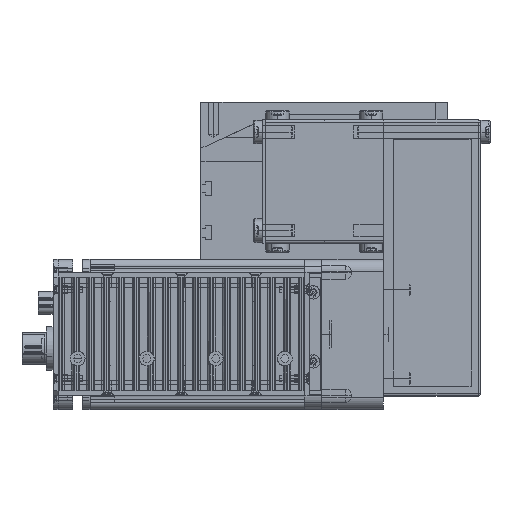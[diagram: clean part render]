
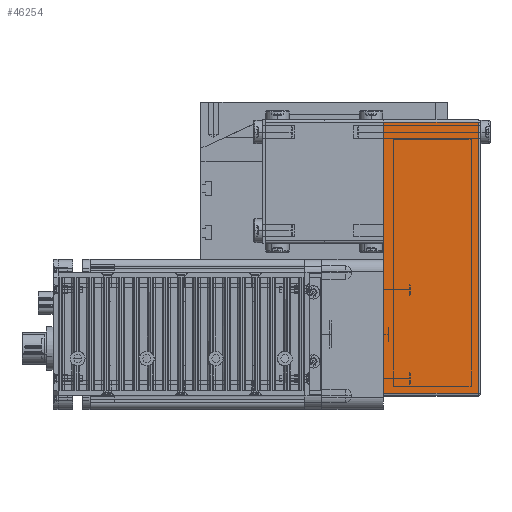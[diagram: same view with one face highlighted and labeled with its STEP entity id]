
A CAD part, top view. The second image highlights one B-rep face of the part: STEP entity #46254.
In plain terms, the highlighted planar face has unit normal (0, 0, 1) as drawn and (0, -1, 0) by its records, which use the part's own axes.
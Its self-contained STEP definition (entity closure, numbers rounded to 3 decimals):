
#28088 = LINE ( 'NONE', #28140, #28139 ) ;
#28115 = CARTESIAN_POINT ( 'NONE',  ( -49., -25., 38.5 ) ) ;
#28131 = DIRECTION ( 'NONE',  ( 1., 0., 0. ) ) ;
#28139 = VECTOR ( 'NONE', #28131, 1000. ) ;
#28140 = CARTESIAN_POINT ( 'NONE',  ( -50., -25., 0. ) ) ;
#28154 = CARTESIAN_POINT ( 'NONE',  ( 61., -25., 0. ) ) ;
#28175 = CARTESIAN_POINT ( 'NONE',  ( -49., -25., 0. ) ) ;
#28203 = DIRECTION ( 'NONE',  ( 0., 0., -1. ) ) ;
#28204 = VECTOR ( 'NONE', #28203, 1000. ) ;
#28210 = CARTESIAN_POINT ( 'NONE',  ( 61., -25., 39.5 ) ) ;
#28211 = LINE ( 'NONE', #28210, #28204 ) ;
#28217 = DIRECTION ( 'NONE',  ( 0., 0., 1. ) ) ;
#28218 = VECTOR ( 'NONE', #28217, 1000. ) ;
#28219 = CARTESIAN_POINT ( 'NONE',  ( -49., -25., 39.5 ) ) ;
#28224 = LINE ( 'NONE', #28219, #28218 ) ;
#28338 = FACE_OUTER_BOUND ( 'NONE', #46263, .T. ) ;
#28345 = DIRECTION ( 'NONE',  ( 0., 1., 0. ) ) ;
#28346 = CARTESIAN_POINT ( 'NONE',  ( -50., -25., 39.5 ) ) ;
#28378 = DIRECTION ( 'NONE',  ( 0., 0., 1. ) ) ;
#28388 = PLANE ( 'NONE',  #28396 ) ;
#28390 = CARTESIAN_POINT ( 'NONE',  ( 61., -25., 38.5 ) ) ;
#28396 = AXIS2_PLACEMENT_3D ( 'NONE', #28346, #28345, #28378 ) ;
#28527 = CARTESIAN_POINT ( 'NONE',  ( -50., -25., 38.5 ) ) ;
#28528 = LINE ( 'NONE', #28527, #28571 ) ;
#28570 = DIRECTION ( 'NONE',  ( 1., 0., 0. ) ) ;
#28571 = VECTOR ( 'NONE', #28570, 1000. ) ;
#46128 = EDGE_CURVE ( 'NONE', #46146, #46171, #28088, .T. ) ;
#46146 = VERTEX_POINT ( 'NONE', #28175 ) ;
#46147 = VERTEX_POINT ( 'NONE', #28115 ) ;
#46171 = VERTEX_POINT ( 'NONE', #28154 ) ;
#46175 = EDGE_CURVE ( 'NONE', #46252, #46171, #28211, .T. ) ;
#46196 = EDGE_CURVE ( 'NONE', #46146, #46147, #28224, .T. ) ;
#46252 = VERTEX_POINT ( 'NONE', #28390 ) ;
#46254 = ADVANCED_FACE ( 'NONE', ( #28338 ), #28388, .F. ) ;
#46257 = ORIENTED_EDGE ( 'NONE', *, *, #46128, .T. ) ;
#46263 = EDGE_LOOP ( 'NONE', ( #46265, #46257, #46310, #46313 ) ) ;
#46265 = ORIENTED_EDGE ( 'NONE', *, *, #46196, .F. ) ;
#46310 = ORIENTED_EDGE ( 'NONE', *, *, #46175, .F. ) ;
#46313 = ORIENTED_EDGE ( 'NONE', *, *, #46315, .F. ) ;
#46315 = EDGE_CURVE ( 'NONE', #46147, #46252, #28528, .T. ) ;
